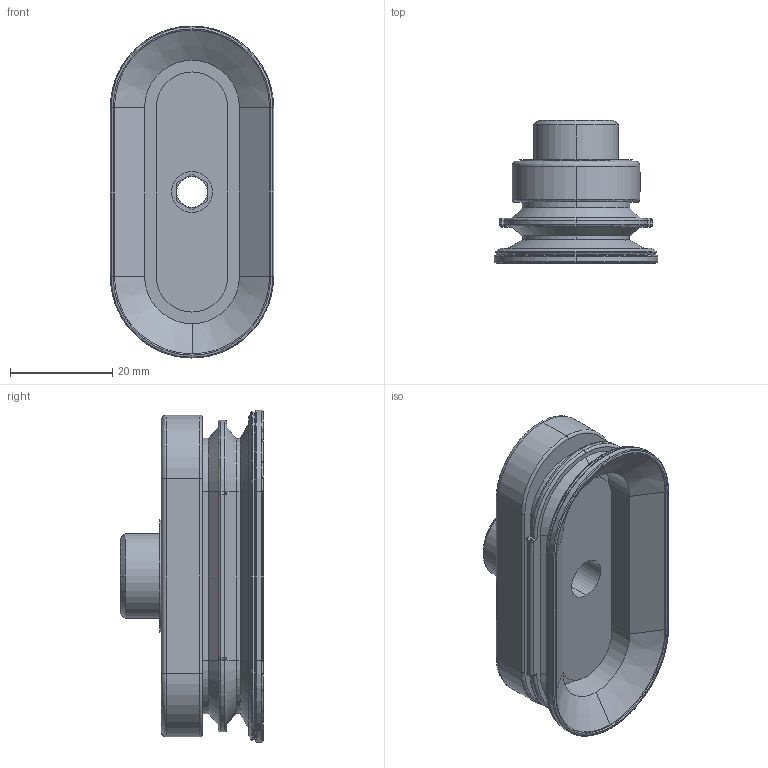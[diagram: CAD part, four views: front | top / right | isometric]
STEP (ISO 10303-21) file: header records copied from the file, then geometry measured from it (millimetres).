
FILE_DESCRIPTION (( 'STEP AP214' ), '1' );
FILE_NAME ('SAOB-60x30-G3-8AG.STEP', '2023-03-07T06:12:54', ( 'Windows User' ), ( 'P R C' ), 'SwSTEP 2.0', 'SolidWorks 2019', '' );
FILE_SCHEMA (( 'AUTOMOTIVE_DESIGN' ));
Length unit declared in the file: millimetre
Products named in the file (1): SAOB-60x30-G3-8AG
Bounding box: 32 x 28 x 65 mm (x, y, z)
Volume: 20129.6 mm3; surface area: 10053.3 mm2
Topology: 1 solids, 1 shells, 248 faces, 569 edges, 334 vertices
Faces by surface type: plane 93, cylinder 67, bspline 62, cone 26
Entity records: 12186 total; most frequent: CARTESIAN_POINT 4065, ORIENTED_EDGE 1130, DIRECTION 1094, EDGE_CURVE 565, AXIS2_PLACEMENT_3D 396, VERTEX_POINT 334, LINE 302, VECTOR 302
